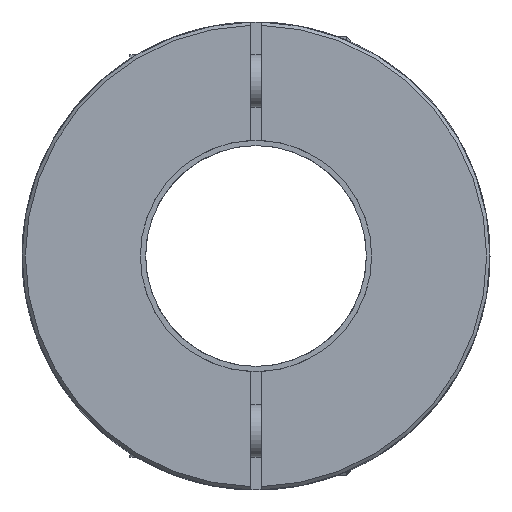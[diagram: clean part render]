
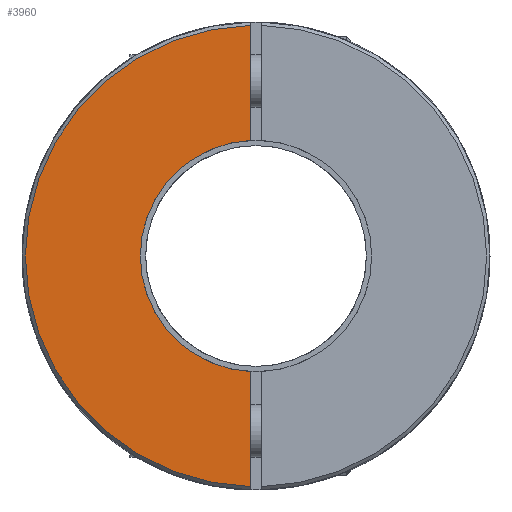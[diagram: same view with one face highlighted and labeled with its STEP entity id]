
A CAD part, front view. The second image highlights one B-rep face of the part: STEP entity #3960.
In plain terms, the highlighted planar face has unit normal (0, -1, 0).
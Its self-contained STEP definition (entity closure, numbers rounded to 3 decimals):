
#1=DIRECTION('',(0.,0.,-1.));
#2=VECTOR('',#1,10.936);
#3=CARTESIAN_POINT('',(-0.5,-38.1,21.924));
#4=LINE('',#3,#2);
#5=DIRECTION('',(0.,0.,-1.));
#6=VECTOR('',#5,10.936);
#7=CARTESIAN_POINT('',(-0.5,-38.1,-10.989));
#8=LINE('',#7,#6);
#72=CARTESIAN_POINT('',(0.,-38.1,0.));
#73=DIRECTION('',(0.,1.,0.));
#74=DIRECTION('',(-0.045,0.,-0.999));
#75=AXIS2_PLACEMENT_3D('',#72,#73,#74);
#3049=CARTESIAN_POINT('',(0.,-38.1,0.));
#3050=DIRECTION('',(0.,-1.,0.));
#3051=DIRECTION('',(-0.023,0.,1.));
#3052=AXIS2_PLACEMENT_3D('',#3049,#3050,#3051);
#3611=CARTESIAN_POINT('',(-0.5,-38.1,21.924));
#3612=CARTESIAN_POINT('',(-0.5,-38.1,10.989));
#3613=VERTEX_POINT('',#3611);
#3614=VERTEX_POINT('',#3612);
#3615=CARTESIAN_POINT('',(-0.5,-38.1,-10.989));
#3616=CARTESIAN_POINT('',(-0.5,-38.1,-21.924));
#3617=VERTEX_POINT('',#3615);
#3618=VERTEX_POINT('',#3616);
#3945=CARTESIAN_POINT('',(0.,-38.1,0.));
#3946=DIRECTION('',(0.,1.,0.));
#3947=DIRECTION('',(1.,0.,0.));
#3948=AXIS2_PLACEMENT_3D('',#3945,#3946,#3947);
#3949=PLANE('',#3948);
#3951=ORIENTED_EDGE('',*,*,#3950,.T.);
#3953=ORIENTED_EDGE('',*,*,#3952,.F.);
#3955=ORIENTED_EDGE('',*,*,#3954,.T.);
#3957=ORIENTED_EDGE('',*,*,#3956,.F.);
#3958=EDGE_LOOP('',(#3951,#3953,#3955,#3957));
#3959=FACE_OUTER_BOUND('',#3958,.F.);
#3960=ADVANCED_FACE('',(#3959),#3949,.F.);
#76=CIRCLE('',#75,11.);
#3053=CIRCLE('',#3052,21.93);
#3950=EDGE_CURVE('',#3613,#3614,#4,.T.);
#3952=EDGE_CURVE('',#3617,#3614,#76,.T.);
#3954=EDGE_CURVE('',#3617,#3618,#8,.T.);
#3956=EDGE_CURVE('',#3613,#3618,#3053,.T.);
